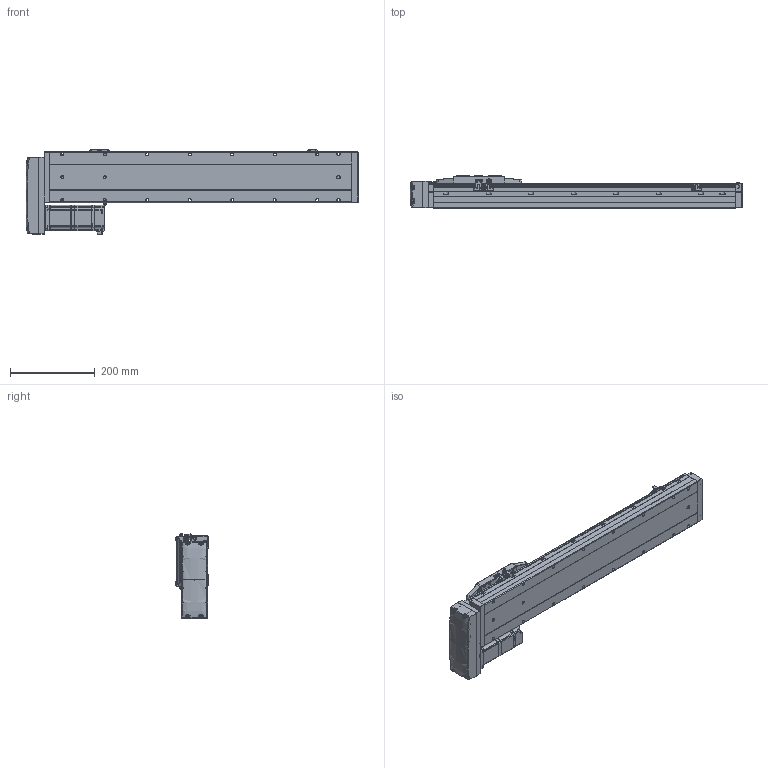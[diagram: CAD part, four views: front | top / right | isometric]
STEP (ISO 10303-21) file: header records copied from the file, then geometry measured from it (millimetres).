
FILE_DESCRIPTION (( 'STEP AP214' ), '1' );
FILE_NAME ('CTH12-L10-S500-BR-C40（简）.STEP', '2023-02-04T07:06:20', ( '' ), ( '' ), 'SwSTEP 2.0', 'SolidWorks 2018', '' );
FILE_SCHEMA (( 'AUTOMOTIVE_DESIGN' ));
Length unit declared in the file: millimetre
Products named in the file (24): CTH400W假蚾啣; 内六角圆柱头螺钉M3-1; PM-Y45; CTH12賑怢ㄗ潠ㄘ; CTH12覜茼え; 湮賑怢  裔赽-1(CTH12)賑怢; CTH12; CTH12-BL_body_4; 内六角圆柱头螺钉M3-2; AC60_Valor predeterminado; CTH12耜蚾裔; CTH12底座-L711简（500行程）; M5蹟隊; 内六角圆柱头螺钉M3; 蚐郲; CTH12侧装连接板（标准）简; CTH400W垫板（3个厚）; 嫖萇羲壽郪磁2; 嫖萇羲壽郪磁1; CTH12-L10-S500-BR-C40（简）; hex nuts, style 1-grades ab gb_GB_FASTENER_NUT_SNAB1 M3-N; CTH12賑怢郪磁; CTH嫖萇羲壽假蚾啣; CTH12_body_3
Assembly tree (44 placements, depth 4):
  CTH12-L10-S500-BR-C40（简）
    CTH12底座-L711简（500行程）
    蚐郲  x2
    CTH12_body_3
    CTH12-BL_body_4
    CTH12侧装连接板（标准）简
    CTH12耜蚾裔
    CTH12賑怢郪磁
      CTH12
        湮賑怢  裔赽-1(CTH12)賑怢
        CTH12賑怢ㄗ潠ㄘ
    CTH12覜茼え
    嫖萇羲壽郪磁1  x2
      CTH嫖萇羲壽假蚾啣
      PM-Y45
      内六角圆柱头螺钉M3-2
      内六角圆柱头螺钉M3-1
      hex nuts, style 1-grades ab gb_GB_FASTENER_NUT_SNAB1 M3-N
    嫖萇羲壽郪磁2
      CTH嫖萇羲壽假蚾啣
      PM-Y45
      内六角圆柱头螺钉M3-1  x2
      内六角圆柱头螺钉M3-2  x2
      hex nuts, style 1-grades ab gb_GB_FASTENER_NUT_SNAB1 M3-N  x2
    CTH400W垫板（3个厚）
    AC60_Valor predeterminado
    内六角圆柱头螺钉M3  x6
    M5蹟隊  x4
    CTH400W假蚾啣
Bounding box: 781.5 x 76 x 201.06 mm (x, y, z)
Volume: 5621310.8 mm3; surface area: 575322.4 mm2
Topology: 47 solids, 48 shells, 2780 faces, 7083 edges, 4521 vertices
Faces by surface type: plane 1519, cylinder 780, cone 331, bspline 98, torus 52
Entity records: 80341 total; most frequent: CARTESIAN_POINT 22014, ORIENTED_EDGE 11346, DIRECTION 11028, EDGE_CURVE 5673, AXIS2_PLACEMENT_3D 3728, VERTEX_POINT 3625, LINE 3572, VECTOR 3572
